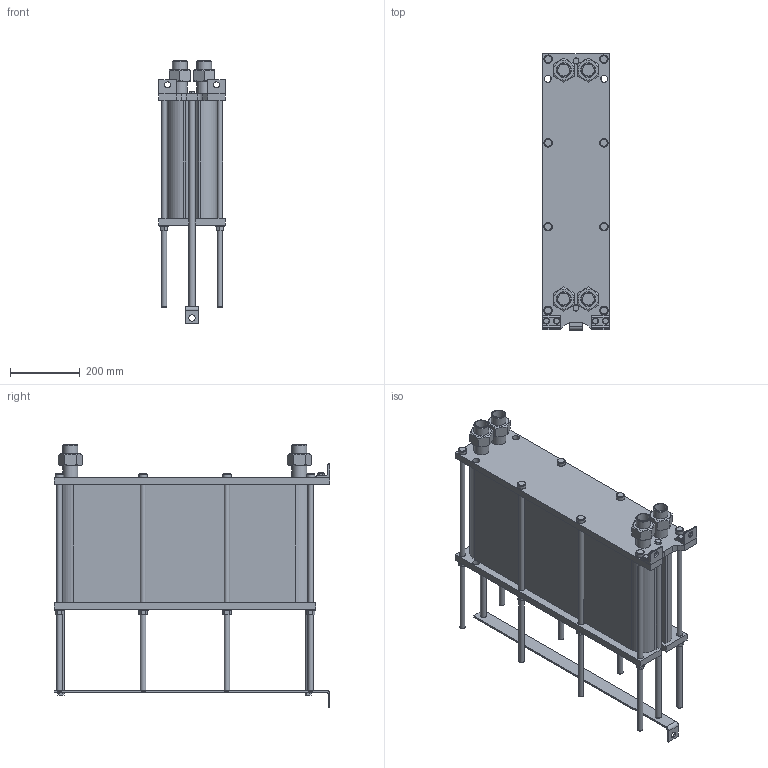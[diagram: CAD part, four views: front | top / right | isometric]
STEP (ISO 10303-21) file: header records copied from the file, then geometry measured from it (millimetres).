
FILE_DESCRIPTION(/* description */ (''),/* implementation_level */ '2;1');
FILE_NAME(/* name */ 'C:\Users\zhuro\Desktop\ENCO\TO\ЭН-008\ЭН-0,5-008-109-1.stp',/* time_stamp */ '2022-06-06T10:55:45+03:00',/* author */ ('zhuro'),/* organization */ (''),/* preprocessor_version */ 'ST-DEVELOPER v18.1',/* originating_system */ 'Autodesk Inventor 2022',/* authorisation */ '');
FILE_SCHEMA (('AUTOMOTIVE_DESIGN { 1 0 10303 214 3 1 1 }'));
Length unit declared in the file: millimetre
Products named in the file (1): ЭН-0,5-008-109-1
Bounding box: 190 x 790 x 752.2 mm (x, y, z)
Volume: 41453081.7 mm3; surface area: 2097654.3 mm2
Topology: 40 solids, 40 shells, 428 faces, 924 edges, 606 vertices
Faces by surface type: plane 273, cylinder 109, cone 40, torus 6
Full cylindrical faces by diameter (mm): 12 x6, 14 x2, 16 x20, 17 x8, 18 x19, 20 x5, 24 x8, 28 x8, 34.3 x8, 42.3 x8
Entity records: 15843 total; most frequent: CARTESIAN_POINT 5991, DIRECTION 1984, ORIENTED_EDGE 1848, EDGE_CURVE 924, AXIS2_PLACEMENT_3D 715, VERTEX_POINT 606, LINE 554, VECTOR 554
